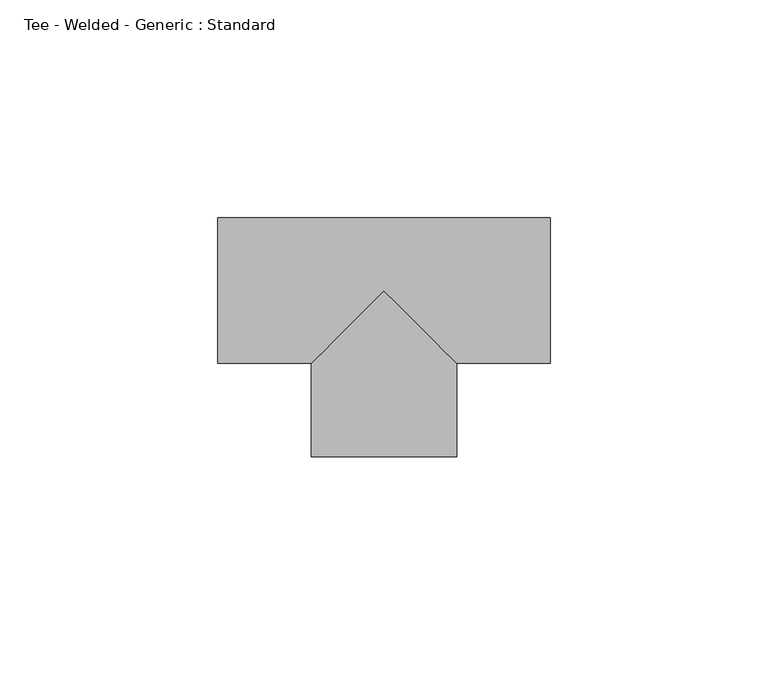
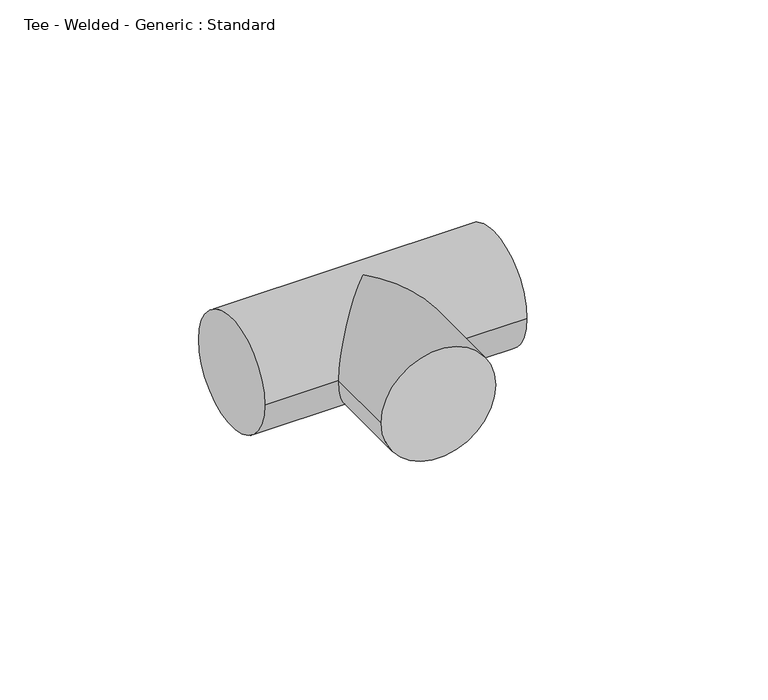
"""IFC4 building model written with IfcOpenShell, lengths in millimetres: pipe fitting geometry, Tee - Welded - Generic : Standard."""

import ifcopenshell
import ifcopenshell.guid

model = None  # the IFC model being written
_history = None  # IfcOwnerHistory: only IFC2X3 demands one
_inside = {}  # id of a spatial element -> (the spatial element, [elements in it])
_under = {}  # id of a project, library or spatial element -> (it, [spatial elements below it])
_declared = {}  # id of a project -> (the project, [libraries it declares])
_typed = {}  # id of a type object -> (the type object, [elements of that type])
_made_of = {}  # id of a material, layer set ... -> (it, [elements and type objects made of it])


def new_model(schema):
    """Start an empty IFC model of exactly this schema.

    Asked for "IFC4X3", IfcOpenShell would pick the latest addendum, in which some entities
    have other attributes; the version numbers below select the first issue.
    IFC2X3 requires an IfcOwnerHistory on every rooted entity: one is made here for all.
    """
    global model, _history
    if schema == "IFC4X3":
        model = ifcopenshell.file(schema_version=(4, 3, 0, 0))
    else:
        model = ifcopenshell.file(schema=schema)
    _inside.clear()
    _under.clear()
    _declared.clear()
    _typed.clear()
    _made_of.clear()
    _history = None
    if model.schema == "IFC2X3":
        org = make("IfcOrganization", Name="unknown")
        user = make(
            "IfcPersonAndOrganization",
            ThePerson=make("IfcPerson", FamilyName="unknown"),
            TheOrganization=org,
        )
        app = make(
            "IfcApplication",
            ApplicationDeveloper=org,
            Version="unknown",
            ApplicationFullName="unknown",
            ApplicationIdentifier="unknown",
        )
        _history = make(
            "IfcOwnerHistory",
            OwningUser=user,
            OwningApplication=app,
            ChangeAction="ADDED",
            CreationDate=0,
        )
    return model


def make(cls, **values):
    """One entity of the class cls with the attributes given. An attribute that is None is left unset."""
    return model.create_entity(
        cls, **{name: value for name, value in values.items() if value is not None}
    )


def rooted(cls, **values):
    """An entity with a GlobalId (a new one), such as an element, a storey or a relation."""
    return make(cls, GlobalId=ifcopenshell.guid.new(), OwnerHistory=_history, **values)


def si_unit(unit_type, name, prefix=None):
    """IfcSIUnit, for example si_unit("LENGTHUNIT", "METRE", prefix="MILLI")."""
    return make("IfcSIUnit", UnitType=unit_type, Prefix=prefix, Name=name)


def assignment(units):
    """IfcUnitAssignment: the units of a project."""
    return None if units is None else make("IfcUnitAssignment", Units=units)


def point(xyz):
    """IfcCartesianPoint."""
    return None if xyz is None else make("IfcCartesianPoint", Coordinates=xyz)


def direction(xyz):
    """IfcDirection."""
    return None if xyz is None else make("IfcDirection", DirectionRatios=xyz)


def frame(location, z_axis=None, x_axis=None):
    """IfcAxis2Placement3D, a coordinate frame: its origin and axes. An axis left out is left unset."""
    return make(
        "IfcAxis2Placement3D",
        Location=point(location),
        Axis=direction(z_axis),
        RefDirection=direction(x_axis),
    )


def origin():
    """The frame at (0, 0, 0) with its axes left unset."""
    return frame((0.0, 0.0, 0.0))


def place(relative_to, where):
    """IfcLocalPlacement: puts the frame where relative to a parent placement (None: the world)."""
    return make(
        "IfcLocalPlacement", PlacementRelTo=relative_to, RelativePlacement=where
    )


def context(
    kind, dimensions, precision=None, world=None, true_north=None, identifier=None
):
    """IfcGeometricRepresentationContext, for example the 3D "Model" context."""
    return make(
        "IfcGeometricRepresentationContext",
        ContextIdentifier=identifier,
        ContextType=kind,
        CoordinateSpaceDimension=dimensions,
        Precision=precision,
        WorldCoordinateSystem=world,
        TrueNorth=true_north,
    )


def project(units=None, contexts=None):
    """IfcProject with its units and contexts."""
    return rooted(
        "IfcProject",
        Name="project",
        RepresentationContexts=contexts,
        UnitsInContext=assignment(units),
    )


def spatial(cls, under=None, at=None, **own):
    """A site, building, storey or space (cls), placed at a placement, below another one or the project."""
    s = rooted(cls, ObjectPlacement=at, **own)
    if under is not None:
        _under.setdefault(under.id(), (under, []))[1].append(s)
    return s


def circle_curve(where, radius):
    """IfcCircle in the frame where."""
    return make("IfcCircle", Position=where, Radius=radius)


def ellipse_curve(where, semi_axis1, semi_axis2):
    """IfcEllipse in the frame where."""
    return make(
        "IfcEllipse", Position=where, SemiAxis1=semi_axis1, SemiAxis2=semi_axis2
    )


def shape(context_of_items, identifier, shape_type, items):
    """IfcShapeRepresentation: the items that make up one representation, for example the "Body"."""
    return make(
        "IfcShapeRepresentation",
        ContextOfItems=context_of_items,
        RepresentationIdentifier=identifier,
        RepresentationType=shape_type,
        Items=items,
    )


def source(mapping_origin, context_of_items, identifier, shape_type, items):
    """IfcRepresentationMap: a shape defined once, which mapped items show again and again."""
    return make(
        "IfcRepresentationMap",
        MappingOrigin=mapping_origin,
        MappedRepresentation=shape(context_of_items, identifier, shape_type, items),
    )


def transform(
    local_origin,
    x_axis=None,
    y_axis=None,
    z_axis=None,
    scale=None,
    scale2=None,
    scale3=None,
    uniform=True,
):
    """IfcCartesianTransformationOperator3D, or its non-uniform kind. x_axis, y_axis, z_axis: its Axis1, 2, 3."""
    if uniform:
        return make(
            "IfcCartesianTransformationOperator3D",
            Axis1=direction(x_axis),
            Axis2=direction(y_axis),
            LocalOrigin=point(local_origin),
            Scale=scale,
            Axis3=direction(z_axis),
        )
    return make(
        "IfcCartesianTransformationOperator3DnonUniform",
        Axis1=direction(x_axis),
        Axis2=direction(y_axis),
        LocalOrigin=point(local_origin),
        Scale=scale,
        Axis3=direction(z_axis),
        Scale2=scale2,
        Scale3=scale3,
    )


def mapped(mapping_source, mapping_target):
    """IfcMappedItem: shows the shape of a source again, moved by a transform."""
    return make(
        "IfcMappedItem", MappingSource=mapping_source, MappingTarget=mapping_target
    )


def made_of(thing, what):
    """Note that an element or type object is made of a material, layer set ...; save() writes the relation."""
    if what is not None:
        _made_of.setdefault(what.id(), (what, []))[1].append(thing)
    return thing


def element(
    cls,
    number,
    at=None,
    inside=None,
    cuts=None,
    type_object=None,
    material=None,
    context=None,
    identifier="Body",
    shape_type=None,
    held_by="IfcProductDefinitionShape",
    body=None,
    shapes=None,
    **own,
):
    """One element of the class cls, such as IfcWall. Its Tag is "e" and its number.

    at: its placement. inside: the storey or other place that contains it. cuts: it is an
    opening in that element (IfcRelVoidsElement). A single representation is given by context,
    identifier, shape_type and body (its items); several are given by shapes. held_by: the class
    of the entity that holds the representations. save() writes the other relations.
    """
    e = rooted(cls, Tag="e%d" % number, ObjectPlacement=at, **own)
    if body is not None:
        shapes = [shape(context, identifier, shape_type, body)]
    if shapes is not None:
        e.Representation = make(held_by, Representations=shapes)
    if inside is not None:
        _inside.setdefault(inside.id(), (inside, []))[1].append(e)
    if cuts is not None:
        rooted(
            "IfcRelVoidsElement", RelatingBuildingElement=cuts, RelatedOpeningElement=e
        )
    if type_object is not None:
        _typed.setdefault(type_object.id(), (type_object, []))[1].append(e)
    return made_of(e, material)


def aggregate(whole, parts):
    """IfcRelAggregates: a whole, such as a stair, and the parts it consists of."""
    return rooted("IfcRelAggregates", RelatingObject=whole, RelatedObjects=parts)


def save(model, path):
    """Write the relations noted so far, then the file.

    IfcRelAggregates (storeys below a building ...), IfcRelContainedInSpatialStructure (elements
    in a storey), IfcRelDefinesByType, IfcRelAssociatesMaterial and IfcRelDeclares: one each for
    every whole, place, type object, material and project.
    """
    for whole, parts in _under.values():
        aggregate(whole, parts)
    for where, things in _inside.values():
        rooted(
            "IfcRelContainedInSpatialStructure",
            RelatedElements=things,
            RelatingStructure=where,
        )
    for kind, things in _typed.values():
        rooted("IfcRelDefinesByType", RelatedObjects=things, RelatingType=kind)
    for what, things in _made_of.values():
        rooted("IfcRelAssociatesMaterial", RelatedObjects=things, RelatingMaterial=what)
    for by, libraries in _declared.values():
        rooted("IfcRelDeclares", RelatingContext=by, RelatedDefinitions=libraries)
    model.write(path)


def plane_surface(at):
    """IfcPlane: the flat surface through the origin of the frame at, square to its z axis."""
    return make("IfcPlane", Position=at)


def cylinder_surface(at, radius):
    """IfcCylindricalSurface: all points at the distance radius from the z axis of the frame at."""
    return make("IfcCylindricalSurface", Position=at, Radius=radius)


def advanced_brep(points, edges, surfaces, faces):
    """IfcAdvancedBrep: a solid bounded by faces that lie on surfaces and meet in shared edges.

    An edge is (start, end): straight between two places in points (the first is 0);
    or (start, end, curve); or (start, end, curve, False) where it runs against its curve.
    A face is (place in surfaces, loops), or (place, loops, False) where it looks against
    its surface's normal. A loop lists edges by number (the first is 1), with a minus sign
    where the edge is run from its end to its start. The first loop is the outer one.
    """
    corners = [point(p) for p in points]
    vertices = [make("IfcVertexPoint", VertexGeometry=c) for c in corners]
    made = []
    for start, end, *more in edges:
        made.append(
            make(
                "IfcEdgeCurve",
                EdgeStart=vertices[start],
                EdgeEnd=vertices[end],
                EdgeGeometry=more[0] if more else make("IfcPolyline", Points=[corners[start], corners[end]]),
                SameSense=more[1] if len(more) > 1 else True,
            )
        )
    hull = []
    for where, loops, *sense in faces:
        bounds = []
        for j, loop in enumerate(loops):
            ring = [make("IfcOrientedEdge", EdgeElement=made[abs(k) - 1], Orientation=k > 0) for k in loop]
            bounds.append(
                make(
                    "IfcFaceOuterBound" if j == 0 else "IfcFaceBound",
                    Bound=make("IfcEdgeLoop", EdgeList=ring),
                    Orientation=True,
                )
            )
        hull.append(make("IfcAdvancedFace", Bounds=bounds, FaceSurface=surfaces[where], SameSense=sense[0] if sense else True))
    return make("IfcAdvancedBrep", Outer=make("IfcClosedShell", CfsFaces=hull))


def tee_welded_generic_standard_6c1fe101(model_context):
    return source(origin(), model_context, "Body", "AdvancedBrep", [
        advanced_brep(
        [(-38.1, -16.66875, 0.0), (-38.1, 16.66875, 0.0), (38.1, -16.66875, 0.0), (38.1, 16.66875, 0.0), (-16.668745, -16.66875, 0.0), (0.0, 0.0, 16.66875), (16.668755, -16.66875, 0.0), (0.0, 0.0, -16.66875), (-16.6687386, -38.100005, 0.0), (16.6687614, -38.099995, 0.0)],
        [
            (0, 1, circle_curve(frame((-38.1, 0.0, 0.0), z_axis=(-1.0, 0.0, 0.0), x_axis=(0.0, 1.0, 0.0)), 16.66875)),
            (1, 0, circle_curve(frame((-38.1, 0.0, 0.0), z_axis=(-1.0, 0.0, 0.0), x_axis=(0.0, 1.0, 0.0)), 16.66875)),
            (2, 3, circle_curve(frame((38.1, 0.0, 0.0), z_axis=(1.0, 0.0, 0.0), x_axis=(0.0, 1.0, 0.0)), 16.66875)),
            (3, 2, circle_curve(frame((38.1, 0.0, 0.0), z_axis=(1.0, 0.0, 0.0), x_axis=(0.0, 1.0, 0.0)), 16.66875)),
            (0, 4),
            (4, 5, ellipse_curve(frame((0.0, 0.0, 0.0), z_axis=(-0.7071068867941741, 0.7071066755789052, 0.0), x_axis=(-0.7071066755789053, -0.7071068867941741, 0.0)), 23.5731688, 16.66875)),
            (5, 6, ellipse_curve(frame((0.0, 0.0, 0.0), z_axis=(0.707106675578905, 0.7071068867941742, 0.0), x_axis=(-0.7071068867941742, 0.707106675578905, 0.0)), 23.5731758, 16.66875)),
            (6, 2),
            (3, 1),
            (6, 7, ellipse_curve(frame((0.0, 0.0, 0.0), z_axis=(0.707106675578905, 0.7071068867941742, 0.0), x_axis=(-0.7071068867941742, 0.707106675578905, 0.0)), 23.5731758, 16.66875)),
            (7, 4, ellipse_curve(frame((0.0, 0.0, 0.0), z_axis=(-0.7071068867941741, 0.7071066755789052, 0.0), x_axis=(-0.7071066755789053, -0.7071068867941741, 0.0)), 23.5731688, 16.66875)),
            (8, 9, circle_curve(frame((1.14e-05, -38.1, 0.0), z_axis=(2.9870350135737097e-07, -0.9999999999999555, 0.0), x_axis=(0.9999999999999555, 2.9870350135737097e-07, 0.0)), 16.66875)),
            (9, 8, circle_curve(frame((1.14e-05, -38.1, 0.0), z_axis=(2.9870350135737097e-07, -0.9999999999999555, 0.0), x_axis=(0.9999999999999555, 2.9870350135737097e-07, 0.0)), 16.66875)),
            (9, 6),
            (4, 8),
        ],
        [
            plane_surface(frame((-38.1, 0.0, 0.0), z_axis=(-1.0, 0.0, 0.0), x_axis=(0.0, 0.0, 1.0))),
            plane_surface(frame((38.1, 0.0, 0.0), z_axis=(1.0, 0.0, 0.0), x_axis=(0.0, 0.0, 1.0))),
            cylinder_surface(frame((-38.1, 0.0, 0.0), z_axis=(-1.0, 0.0, 0.0), x_axis=(0.0, 1.0, 0.0)), 16.66875),
            plane_surface(frame((1.14e-05, -38.1, 0.0), z_axis=(2.9870350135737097e-07, -0.9999999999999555, 0.0), x_axis=(0.0, 0.0, 1.0))),
            cylinder_surface(frame((0.0, 0.0, 0.0), z_axis=(-2.9870350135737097e-07, 0.9999999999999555, 0.0), x_axis=(0.9999999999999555, 2.9870350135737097e-07, 0.0)), 16.66875),
        ],
        [
            (0, [[1, 2]]),
            (1, [[3, 4]]),
            (2, [[-1, 5, 6, 7, 8, -4, 9]]),
            (2, [[-2, -9, -3, -8, 10, 11, -5]]),
            (3, [[12, 13]]),
            (4, [[-13, 14, -7, -6, 15]]),
            (4, [[-12, -15, -11, -10, -14]]),
        ],
    ),
    ])


if __name__ == "__main__":
    model = new_model("IFC4")
    model_context = context("Model", 3, world=origin())
    ifc_project = project(units=[si_unit("LENGTHUNIT", "METRE", prefix="MILLI")], contexts=[model_context])
    site = spatial("IfcSite", under=ifc_project)
    building = spatial("IfcBuilding", under=site)
    placement = place(None, origin())
    tee_welded_generic_standard_shape = tee_welded_generic_standard_6c1fe101(model_context)
    element("IfcPipeFitting", 1, ObjectType="Tee - Welded - Generic : Standard", at=placement, inside=building, context=model_context, shape_type="MappedRepresentation", body=[
        mapped(tee_welded_generic_standard_shape, transform((0.0, 0.0, 0.0), x_axis=(1.0, 0.0, 0.0), y_axis=(0.0, 1.0, 0.0), z_axis=(0.0, 0.0, 1.0))),
    ])
    save(model, "model.ifc")
